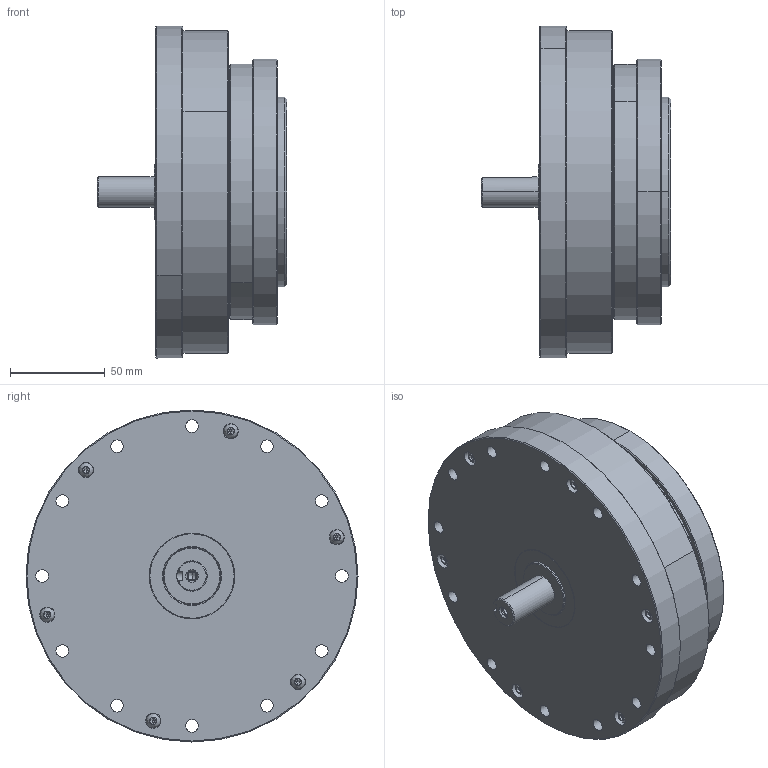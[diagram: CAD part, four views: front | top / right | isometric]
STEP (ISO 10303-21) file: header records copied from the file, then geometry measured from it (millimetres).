
FILE_DESCRIPTION (( 'STEP AP203' ), '1' );
FILE_NAME ('LHS-40-XXX-C-IV.step', '2025-01-07T06:46:28', ( '' ), ( '' ), 'SwSTEP 2.0', 'SolidWorks 2023', '' );
FILE_SCHEMA (( 'CONFIG_CONTROL_DESIGN' ));
Length unit declared in the file: metre
Products named in the file (1): LHS-40-XXX-C-IV
Bounding box: 100 x 175 x 175 mm (x, y, z)
Volume: 912088.6 mm3; surface area: 416784.5 mm2
Topology: 64 solids, 64 shells, 1788 faces, 4521 edges, 2763 vertices
Faces by surface type: cylinder 638, plane 543, bspline 354, cone 253
Entity records: 63874 total; most frequent: CARTESIAN_POINT 22378, ORIENTED_EDGE 8674, DIRECTION 8576, EDGE_CURVE 4337, AXIS2_PLACEMENT_3D 3517, VERTEX_POINT 2763, EDGE_LOOP 2200, CIRCLE 2082
